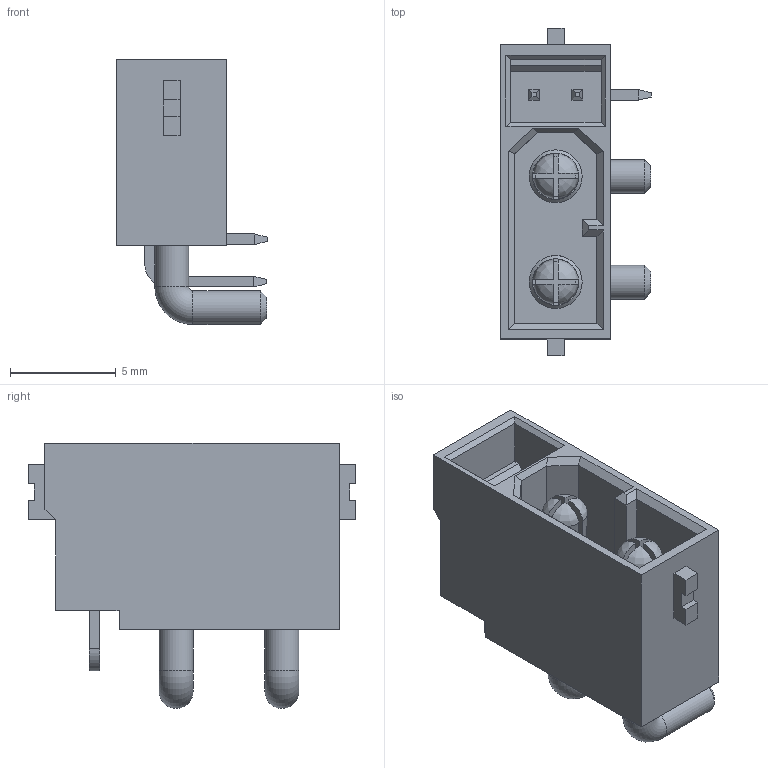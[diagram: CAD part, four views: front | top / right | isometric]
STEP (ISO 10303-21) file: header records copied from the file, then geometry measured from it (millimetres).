
FILE_DESCRIPTION(/* description */ ('CATIA V5 STEP Exchange'),/* implementation_level */ '2;1');
FILE_NAME(/* name */ 'METUPowerLab_Connectors_PowerConnectors_XT30(2+2)PW-M.step',/* time_stamp */ '2025-09-14T18:49:35+03:00',/* author */ (''),/* organization */ (''),/* preprocessor_version */ 'ST-DEVELOPER v20.1',/* originating_system */ 'Autodesk Translation Framework v14.10.0.0',/* authorisation */ '');
FILE_SCHEMA (('AUTOMOTIVE_DESIGN { 1 0 10303 214 3 1 1 }'));
Length unit declared in the file: millimetre
Products named in the file (1): XT30PW 2+2-M
Bounding box: 7.12 x 15.5 x 12.53 mm (x, y, z)
Volume: 376.4 mm3; surface area: 1013.2 mm2
Topology: 3 solids, 3 shells, 474 faces, 1294 edges, 852 vertices
Faces by surface type: plane 379, cylinder 73, cone 12, bspline 8, torus 2
Full cylindrical faces by diameter (mm): 1.6 x4, 1.9 x2, 2.1 x2, 2.35 x2, 2.5 x8
Entity records: 15483 total; most frequent: CARTESIAN_POINT 3173, ORIENTED_EDGE 2588, DIRECTION 2460, EDGE_CURVE 1294, LINE 998, VECTOR 998, VERTEX_POINT 852, AXIS2_PLACEMENT_3D 731
